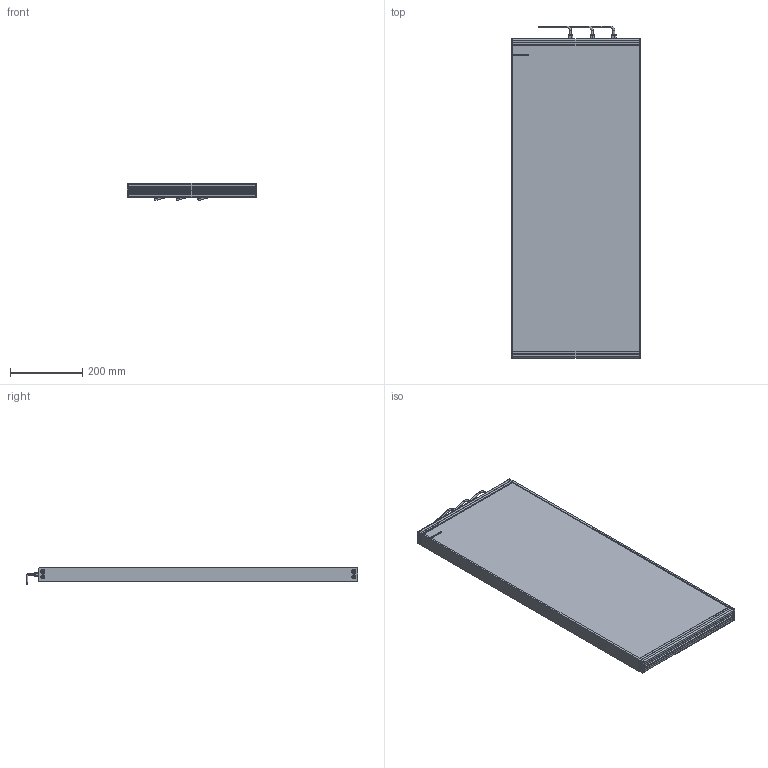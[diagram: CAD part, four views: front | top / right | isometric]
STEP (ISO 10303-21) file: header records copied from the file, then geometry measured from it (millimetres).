
FILE_DESCRIPTION (( 'STEP AP214' ), '1' );
FILE_NAME ('EFFI-BL-350T-850+3M12.STEP', '2021-06-28T09:58:38', ( '' ), ( '' ), 'SwSTEP 2.0', 'SolidWorks 2021', '' );
FILE_SCHEMA (( 'AUTOMOTIVE_DESIGN' ));
Length unit declared in the file: millimetre
Products named in the file (7): EFFI-BL-350T-850+3M12; profile modif_lg 99.5 mm; bord fin modif_lg 436.5 mm; cordon_Avec cable; Pièce2^EFFI-BL-XXXT-YYY + 3 M12; 003776
Assembly tree (16 placements, depth 2):
  EFFI-BL-350T-850+3M12
    profile modif_lg 99.5 mm
    bord fin modif_lg 436.5 mm  x2
    Pièce2^EFFI-BL-XXXT-YYY + 3 M12
    profile modif_lg 99.5 mm
    003776  x8
    cordon_Avec cable  x3
Bounding box: 360 x 921.15 x 48.18 mm (x, y, z)
Volume: 11042350.5 mm3; surface area: 955509.1 mm2
Topology: 13 solids, 31 shells, 748 faces, 1882 edges, 1207 vertices
Faces by surface type: plane 417, bspline 143, cylinder 136, torus 30, cone 22
Entity records: 16678 total; most frequent: CARTESIAN_POINT 5372, ORIENTED_EDGE 2208, DIRECTION 1926, EDGE_CURVE 1108, VECTOR 802, LINE 802, VERTEX_POINT 730, AXIS2_PLACEMENT_3D 562
